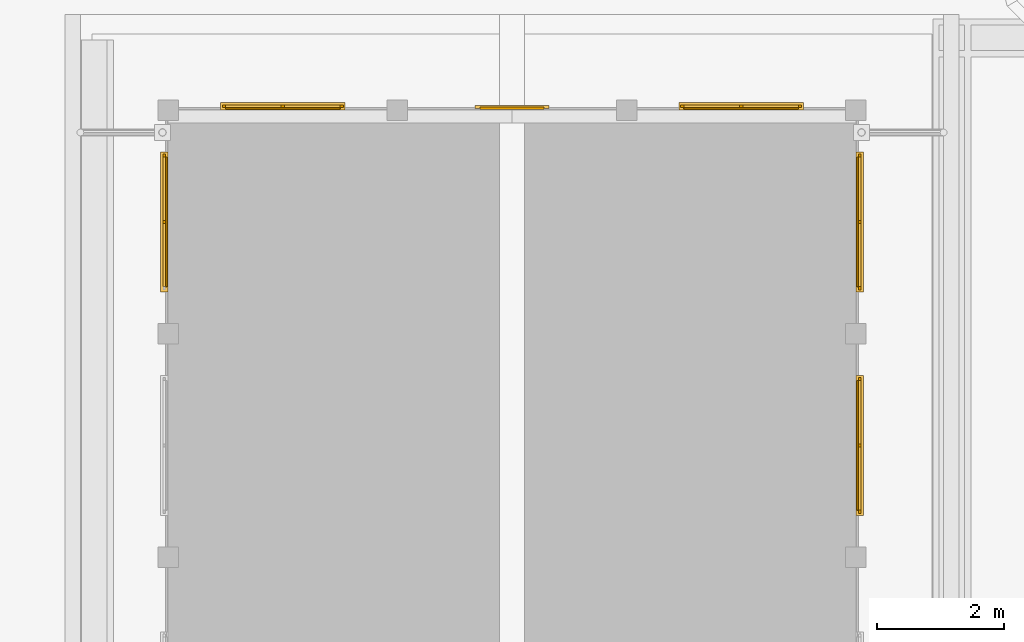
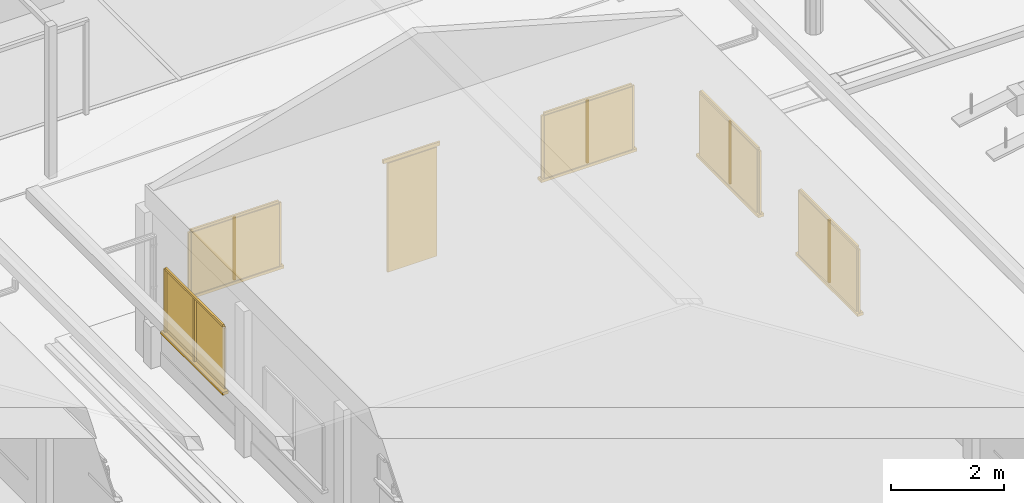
# One storey, part 57 of 177: 29 windows, 2 doors.
"""IFC4 building model written with IfcOpenShell, lengths in metres."""

from ifc_helpers import new_model, si_unit, origin, origin_with_axes, place, context, subcontext, project, spatial, triangles, element, save


model = new_model("IFC4")

# Units and contexts
model_context = context("Model", 3, precision=1e-05, world=origin_with_axes())
body_context = subcontext(model_context, "Body", "Model", "MODEL_VIEW")
ifc_project = project(units=[si_unit("LENGTHUNIT", "METRE"), si_unit("AREAUNIT", "SQUARE_METRE"), si_unit("VOLUMEUNIT", "CUBIC_METRE"), si_unit("PLANEANGLEUNIT", "RADIAN")], contexts=[model_context])

# Site, building, storey
site_placement = place(None, origin_with_axes())
site = spatial("IfcSite", under=ifc_project, at=site_placement, Name="Predio Los Mangos - Morales, San Martín", CompositionType="ELEMENT")
building_placement = place(site_placement, origin())
building = spatial("IfcBuilding", under=site, at=building_placement, Name="Hogar de Refugio Temporal", CompositionType="ELEMENT")
storey_placement = place(building_placement, origin())
storey = spatial("IfcBuildingStorey", under=building, at=storey_placement, Name="NIVEL 1 (NPT +0.00)", CompositionType="ELEMENT", Elevation=0.0)

# Windows
window_1_placement = place(storey_placement, origin())
element("IfcWindow", 1, at=window_1_placement, inside=storey, Name="E-04_vg0_vid", ObjectType="Ventana", PredefinedType="WINDOW", context=body_context, shape_type="Tessellation", body=[
    triangles([(14.7, 87.22, 1.05), (16.5, 87.22, 1.05), (16.5, 87.24, 1.05), (14.7, 87.24, 1.05), (14.7, 87.22, 2.4), (16.5, 87.22, 2.4), (16.5, 87.24, 2.4), (14.7, 87.24, 2.4)], [[1, 4, 3], [1, 3, 2], [5, 6, 7], [5, 7, 8], [1, 2, 6], [1, 6, 5], [2, 3, 7], [2, 7, 6], [3, 4, 8], [3, 8, 7], [4, 1, 5], [4, 5, 8]]),
])
window_2_placement = place(storey_placement, origin())
element("IfcWindow", 2, at=window_2_placement, inside=storey, Name="E-04_vg0_m", ObjectType="Ventana", PredefinedType="WINDOW", context=body_context, shape_type="Tessellation", body=[
    triangles([(14.65, 87.24, 1.05), (14.7, 87.24, 1.05), (14.7, 87.28, 1.05), (14.65, 87.28, 1.05), (14.65, 87.24, 2.4), (14.7, 87.24, 2.4), (14.7, 87.28, 2.4), (14.65, 87.28, 2.4)], [[1, 4, 3], [1, 3, 2], [5, 6, 7], [5, 7, 8], [1, 2, 6], [1, 6, 5], [2, 3, 7], [2, 7, 6], [3, 4, 8], [3, 8, 7], [4, 1, 5], [4, 5, 8]]),
])
window_3_placement = place(storey_placement, origin())
element("IfcWindow", 3, at=window_3_placement, inside=storey, Name="E-04_vg0_m", ObjectType="Ventana", PredefinedType="WINDOW", context=body_context, shape_type="Tessellation", body=[
    triangles([(16.5, 87.24, 1.05), (16.55, 87.24, 1.05), (16.55, 87.28, 1.05), (16.5, 87.28, 1.05), (16.5, 87.24, 2.4), (16.55, 87.24, 2.4), (16.55, 87.28, 2.4), (16.5, 87.28, 2.4)], [[1, 4, 3], [1, 3, 2], [5, 6, 7], [5, 7, 8], [1, 2, 6], [1, 6, 5], [2, 3, 7], [2, 7, 6], [3, 4, 8], [3, 8, 7], [4, 1, 5], [4, 5, 8]]),
])
window_4_placement = place(storey_placement, origin())
element("IfcWindow", 4, at=window_4_placement, inside=storey, Name="E-04_vg0_m", ObjectType="Ventana", PredefinedType="WINDOW", context=body_context, shape_type="Tessellation", body=[
    triangles([(14.7, 87.24, 2.4), (16.5, 87.24, 2.4), (16.5, 87.28, 2.4), (14.7, 87.28, 2.4), (14.7, 87.24, 2.45), (16.5, 87.24, 2.45), (16.5, 87.28, 2.45), (14.7, 87.28, 2.45)], [[1, 4, 3], [1, 3, 2], [5, 6, 7], [5, 7, 8], [1, 2, 6], [1, 6, 5], [2, 3, 7], [2, 7, 6], [3, 4, 8], [3, 8, 7], [4, 1, 5], [4, 5, 8]]),
])
window_5_placement = place(storey_placement, origin())
element("IfcWindow", 5, at=window_5_placement, inside=storey, Name="E-04_vg0_m", ObjectType="Ventana", PredefinedType="WINDOW", context=body_context, shape_type="Tessellation", body=[
    triangles([(15.575, 87.24, 1.05), (15.625, 87.24, 1.05), (15.625, 87.28, 1.05), (15.575, 87.28, 1.05), (15.575, 87.24, 2.4), (15.625, 87.24, 2.4), (15.625, 87.28, 2.4), (15.575, 87.28, 2.4)], [[1, 4, 3], [1, 3, 2], [5, 6, 7], [5, 7, 8], [1, 2, 6], [1, 6, 5], [2, 3, 7], [2, 7, 6], [3, 4, 8], [3, 8, 7], [4, 1, 5], [4, 5, 8]]),
])
window_6_placement = place(storey_placement, origin())
element("IfcWindow", 6, at=window_6_placement, inside=storey, Name="E-04_vg0_alf", ObjectType="Ventana", PredefinedType="WINDOW", context=body_context, shape_type="Tessellation", body=[
    triangles([(14.62, 87.2, 0.99), (16.58, 87.2, 0.99), (16.58, 87.32, 0.99), (14.62, 87.32, 0.99), (14.62, 87.2, 1.05), (16.58, 87.2, 1.05), (16.58, 87.32, 1.05), (14.62, 87.32, 1.05)], [[1, 4, 3], [1, 3, 2], [5, 6, 7], [5, 7, 8], [1, 2, 6], [1, 6, 5], [2, 3, 7], [2, 7, 6], [3, 4, 8], [3, 8, 7], [4, 1, 5], [4, 5, 8]]),
])

# Doors
door_1_placement = place(storey_placement, origin())
element("IfcDoor", 7, at=door_1_placement, inside=storey, Name="E-04_pp", ObjectType="Puerta", PredefinedType="DOOR", context=body_context, shape_type="Tessellation", body=[
    triangles([(18.7, 87.21, 0.15), (19.7, 87.21, 0.15), (19.7, 87.25, 0.15), (18.7, 87.25, 0.15), (18.7, 87.21, 2.5), (19.7, 87.21, 2.5), (19.7, 87.25, 2.5), (18.7, 87.25, 2.5)], [[1, 4, 3], [1, 3, 2], [5, 6, 7], [5, 7, 8], [1, 2, 6], [1, 6, 5], [2, 3, 7], [2, 7, 6], [3, 4, 8], [3, 8, 7], [4, 1, 5], [4, 5, 8]]),
])
door_2_placement = place(storey_placement, origin())
element("IfcDoor", 8, at=door_2_placement, inside=storey, Name="E-04_pp_marco", ObjectType="Puerta", PredefinedType="DOOR", context=body_context, shape_type="Tessellation", body=[
    triangles([(18.62, 87.23, 2.5), (19.78, 87.23, 2.5), (19.78, 87.27, 2.5), (18.62, 87.27, 2.5), (18.62, 87.23, 2.58), (19.78, 87.23, 2.58), (19.78, 87.27, 2.58), (18.62, 87.27, 2.58)], [[1, 4, 3], [1, 3, 2], [5, 6, 7], [5, 7, 8], [1, 2, 6], [1, 6, 5], [2, 3, 7], [2, 7, 6], [3, 4, 8], [3, 8, 7], [4, 1, 5], [4, 5, 8]]),
])

# Windows
window_7_placement = place(storey_placement, origin())
element("IfcWindow", 9, at=window_7_placement, inside=storey, Name="E-04_vg2_vid", ObjectType="Ventana", PredefinedType="WINDOW", context=body_context, shape_type="Tessellation", body=[
    triangles([(21.9, 87.22, 1.05), (23.7, 87.22, 1.05), (23.7, 87.24, 1.05), (21.9, 87.24, 1.05), (21.9, 87.22, 2.4), (23.7, 87.22, 2.4), (23.7, 87.24, 2.4), (21.9, 87.24, 2.4)], [[1, 4, 3], [1, 3, 2], [5, 6, 7], [5, 7, 8], [1, 2, 6], [1, 6, 5], [2, 3, 7], [2, 7, 6], [3, 4, 8], [3, 8, 7], [4, 1, 5], [4, 5, 8]]),
])
window_8_placement = place(storey_placement, origin())
element("IfcWindow", 10, at=window_8_placement, inside=storey, Name="E-04_vg2_m", ObjectType="Ventana", PredefinedType="WINDOW", context=body_context, shape_type="Tessellation", body=[
    triangles([(21.85, 87.24, 1.05), (21.9, 87.24, 1.05), (21.9, 87.28, 1.05), (21.85, 87.28, 1.05), (21.85, 87.24, 2.4), (21.9, 87.24, 2.4), (21.9, 87.28, 2.4), (21.85, 87.28, 2.4)], [[1, 4, 3], [1, 3, 2], [5, 6, 7], [5, 7, 8], [1, 2, 6], [1, 6, 5], [2, 3, 7], [2, 7, 6], [3, 4, 8], [3, 8, 7], [4, 1, 5], [4, 5, 8]]),
])
window_9_placement = place(storey_placement, origin())
element("IfcWindow", 11, at=window_9_placement, inside=storey, Name="E-04_vg2_m", ObjectType="Ventana", PredefinedType="WINDOW", context=body_context, shape_type="Tessellation", body=[
    triangles([(23.7, 87.24, 1.05), (23.75, 87.24, 1.05), (23.75, 87.28, 1.05), (23.7, 87.28, 1.05), (23.7, 87.24, 2.4), (23.75, 87.24, 2.4), (23.75, 87.28, 2.4), (23.7, 87.28, 2.4)], [[1, 4, 3], [1, 3, 2], [5, 6, 7], [5, 7, 8], [1, 2, 6], [1, 6, 5], [2, 3, 7], [2, 7, 6], [3, 4, 8], [3, 8, 7], [4, 1, 5], [4, 5, 8]]),
])
window_10_placement = place(storey_placement, origin())
element("IfcWindow", 12, at=window_10_placement, inside=storey, Name="E-04_vg2_m", ObjectType="Ventana", PredefinedType="WINDOW", context=body_context, shape_type="Tessellation", body=[
    triangles([(21.9, 87.24, 2.4), (23.7, 87.24, 2.4), (23.7, 87.28, 2.4), (21.9, 87.28, 2.4), (21.9, 87.24, 2.45), (23.7, 87.24, 2.45), (23.7, 87.28, 2.45), (21.9, 87.28, 2.45)], [[1, 4, 3], [1, 3, 2], [5, 6, 7], [5, 7, 8], [1, 2, 6], [1, 6, 5], [2, 3, 7], [2, 7, 6], [3, 4, 8], [3, 8, 7], [4, 1, 5], [4, 5, 8]]),
])
window_11_placement = place(storey_placement, origin())
element("IfcWindow", 13, at=window_11_placement, inside=storey, Name="E-04_vg2_m", ObjectType="Ventana", PredefinedType="WINDOW", context=body_context, shape_type="Tessellation", body=[
    triangles([(22.775, 87.24, 1.05), (22.825, 87.24, 1.05), (22.825, 87.28, 1.05), (22.775, 87.28, 1.05), (22.775, 87.24, 2.4), (22.825, 87.24, 2.4), (22.825, 87.28, 2.4), (22.775, 87.28, 2.4)], [[1, 4, 3], [1, 3, 2], [5, 6, 7], [5, 7, 8], [1, 2, 6], [1, 6, 5], [2, 3, 7], [2, 7, 6], [3, 4, 8], [3, 8, 7], [4, 1, 5], [4, 5, 8]]),
])
window_12_placement = place(storey_placement, origin())
element("IfcWindow", 14, at=window_12_placement, inside=storey, Name="E-04_vg2_alf", ObjectType="Ventana", PredefinedType="WINDOW", context=body_context, shape_type="Tessellation", body=[
    triangles([(21.82, 87.2, 0.99), (23.78, 87.2, 0.99), (23.78, 87.32, 0.99), (21.82, 87.32, 0.99), (21.82, 87.2, 1.05), (23.78, 87.2, 1.05), (23.78, 87.32, 1.05), (21.82, 87.32, 1.05)], [[1, 4, 3], [1, 3, 2], [5, 6, 7], [5, 7, 8], [1, 2, 6], [1, 6, 5], [2, 3, 7], [2, 7, 6], [3, 4, 8], [3, 8, 7], [4, 1, 5], [4, 5, 8]]),
])
window_13_placement = place(storey_placement, origin())
element("IfcWindow", 15, at=window_13_placement, inside=storey, Name="E-04_v9_vid", ObjectType="Ventana", PredefinedType="WINDOW", context=body_context, shape_type="Tessellation", body=[
    triangles([(13.76, 84.4271, 1.05), (13.78, 84.4271, 1.05), (13.78, 86.4629, 1.05), (13.76, 86.4629, 1.05), (13.76, 84.4271, 2.4), (13.78, 84.4271, 2.4), (13.78, 86.4629, 2.4), (13.76, 86.4629, 2.4)], [[1, 4, 3], [1, 3, 2], [5, 6, 7], [5, 7, 8], [1, 2, 6], [1, 6, 5], [2, 3, 7], [2, 7, 6], [3, 4, 8], [3, 8, 7], [4, 1, 5], [4, 5, 8]]),
])
window_14_placement = place(storey_placement, origin())
element("IfcWindow", 16, at=window_14_placement, inside=storey, Name="E-04_v9_m", ObjectType="Ventana", PredefinedType="WINDOW", context=body_context, shape_type="Tessellation", body=[
    triangles([(13.72, 86.4629, 1.05), (13.76, 86.4629, 1.05), (13.76, 86.5129, 1.05), (13.72, 86.5129, 1.05), (13.72, 86.4629, 2.4), (13.76, 86.4629, 2.4), (13.76, 86.5129, 2.4), (13.72, 86.5129, 2.4)], [[1, 4, 3], [1, 3, 2], [5, 6, 7], [5, 7, 8], [1, 2, 6], [1, 6, 5], [2, 3, 7], [2, 7, 6], [3, 4, 8], [3, 8, 7], [4, 1, 5], [4, 5, 8]]),
])
window_15_placement = place(storey_placement, origin())
element("IfcWindow", 17, at=window_15_placement, inside=storey, Name="E-04_v9_m", ObjectType="Ventana", PredefinedType="WINDOW", context=body_context, shape_type="Tessellation", body=[
    triangles([(13.72, 84.4271, 2.4), (13.76, 84.4271, 2.4), (13.76, 86.4629, 2.4), (13.72, 86.4629, 2.4), (13.72, 84.4271, 2.45), (13.76, 84.4271, 2.45), (13.76, 86.4629, 2.45), (13.72, 86.4629, 2.45)], [[1, 4, 3], [1, 3, 2], [5, 6, 7], [5, 7, 8], [1, 2, 6], [1, 6, 5], [2, 3, 7], [2, 7, 6], [3, 4, 8], [3, 8, 7], [4, 1, 5], [4, 5, 8]]),
])
window_16_placement = place(storey_placement, origin())
element("IfcWindow", 18, at=window_16_placement, inside=storey, Name="E-04_v9_m", ObjectType="Ventana", PredefinedType="WINDOW", context=body_context, shape_type="Tessellation", body=[
    triangles([(13.72, 85.42, 1.05), (13.76, 85.42, 1.05), (13.76, 85.47, 1.05), (13.72, 85.47, 1.05), (13.72, 85.42, 2.4), (13.76, 85.42, 2.4), (13.76, 85.47, 2.4), (13.72, 85.47, 2.4)], [[1, 4, 3], [1, 3, 2], [5, 6, 7], [5, 7, 8], [1, 2, 6], [1, 6, 5], [2, 3, 7], [2, 7, 6], [3, 4, 8], [3, 8, 7], [4, 1, 5], [4, 5, 8]]),
])
window_17_placement = place(storey_placement, origin())
element("IfcWindow", 19, at=window_17_placement, inside=storey, Name="E-04_v9_alf", ObjectType="Ventana", PredefinedType="WINDOW", context=body_context, shape_type="Tessellation", body=[
    triangles([(13.8, 84.3471, 0.99), (13.68, 84.3471, 0.99), (13.68, 86.5429, 0.99), (13.8, 86.5429, 0.99), (13.8, 84.3471, 1.05), (13.68, 84.3471, 1.05), (13.68, 86.5429, 1.05), (13.8, 86.5429, 1.05)], [[1, 4, 3], [1, 3, 2], [5, 6, 7], [5, 7, 8], [1, 2, 6], [1, 6, 5], [2, 3, 7], [2, 7, 6], [3, 4, 8], [3, 8, 7], [4, 1, 5], [4, 5, 8]]),
])
window_18_placement = place(storey_placement, origin())
element("IfcWindow", 20, at=window_18_placement, inside=storey, Name="E-04_v8_vid", ObjectType="Ventana", PredefinedType="WINDOW", context=body_context, shape_type="Tessellation", body=[
    triangles([(24.62, 80.9171, 1.05), (24.64, 80.9171, 1.05), (24.64, 82.9529, 1.05), (24.62, 82.9529, 1.05), (24.62, 80.9171, 2.4), (24.64, 80.9171, 2.4), (24.64, 82.9529, 2.4), (24.62, 82.9529, 2.4)], [[1, 4, 3], [1, 3, 2], [5, 6, 7], [5, 7, 8], [1, 2, 6], [1, 6, 5], [2, 3, 7], [2, 7, 6], [3, 4, 8], [3, 8, 7], [4, 1, 5], [4, 5, 8]]),
])
window_19_placement = place(storey_placement, origin())
element("IfcWindow", 21, at=window_19_placement, inside=storey, Name="E-04_v8_m", ObjectType="Ventana", PredefinedType="WINDOW", context=body_context, shape_type="Tessellation", body=[
    triangles([(24.64, 80.8671, 1.05), (24.68, 80.8671, 1.05), (24.68, 80.9171, 1.05), (24.64, 80.9171, 1.05), (24.64, 80.8671, 2.4), (24.68, 80.8671, 2.4), (24.68, 80.9171, 2.4), (24.64, 80.9171, 2.4)], [[1, 4, 3], [1, 3, 2], [5, 6, 7], [5, 7, 8], [1, 2, 6], [1, 6, 5], [2, 3, 7], [2, 7, 6], [3, 4, 8], [3, 8, 7], [4, 1, 5], [4, 5, 8]]),
])
window_20_placement = place(storey_placement, origin())
element("IfcWindow", 22, at=window_20_placement, inside=storey, Name="E-04_v8_m", ObjectType="Ventana", PredefinedType="WINDOW", context=body_context, shape_type="Tessellation", body=[
    triangles([(24.64, 82.9529, 1.05), (24.68, 82.9529, 1.05), (24.68, 83.0029, 1.05), (24.64, 83.0029, 1.05), (24.64, 82.9529, 2.4), (24.68, 82.9529, 2.4), (24.68, 83.0029, 2.4), (24.64, 83.0029, 2.4)], [[1, 4, 3], [1, 3, 2], [5, 6, 7], [5, 7, 8], [1, 2, 6], [1, 6, 5], [2, 3, 7], [2, 7, 6], [3, 4, 8], [3, 8, 7], [4, 1, 5], [4, 5, 8]]),
])
window_21_placement = place(storey_placement, origin())
element("IfcWindow", 23, at=window_21_placement, inside=storey, Name="E-04_v8_m", ObjectType="Ventana", PredefinedType="WINDOW", context=body_context, shape_type="Tessellation", body=[
    triangles([(24.64, 80.9171, 2.4), (24.68, 80.9171, 2.4), (24.68, 82.9529, 2.4), (24.64, 82.9529, 2.4), (24.64, 80.9171, 2.45), (24.68, 80.9171, 2.45), (24.68, 82.9529, 2.45), (24.64, 82.9529, 2.45)], [[1, 4, 3], [1, 3, 2], [5, 6, 7], [5, 7, 8], [1, 2, 6], [1, 6, 5], [2, 3, 7], [2, 7, 6], [3, 4, 8], [3, 8, 7], [4, 1, 5], [4, 5, 8]]),
])
window_22_placement = place(storey_placement, origin())
element("IfcWindow", 24, at=window_22_placement, inside=storey, Name="E-04_v8_m", ObjectType="Ventana", PredefinedType="WINDOW", context=body_context, shape_type="Tessellation", body=[
    triangles([(24.64, 81.91, 1.05), (24.68, 81.91, 1.05), (24.68, 81.96, 1.05), (24.64, 81.96, 1.05), (24.64, 81.91, 2.4), (24.68, 81.91, 2.4), (24.68, 81.96, 2.4), (24.64, 81.96, 2.4)], [[1, 4, 3], [1, 3, 2], [5, 6, 7], [5, 7, 8], [1, 2, 6], [1, 6, 5], [2, 3, 7], [2, 7, 6], [3, 4, 8], [3, 8, 7], [4, 1, 5], [4, 5, 8]]),
])
window_23_placement = place(storey_placement, origin())
element("IfcWindow", 25, at=window_23_placement, inside=storey, Name="E-04_v8_alf", ObjectType="Ventana", PredefinedType="WINDOW", context=body_context, shape_type="Tessellation", body=[
    triangles([(24.6, 80.8371, 0.99), (24.72, 80.8371, 0.99), (24.72, 83.0329, 0.99), (24.6, 83.0329, 0.99), (24.6, 80.8371, 1.05), (24.72, 80.8371, 1.05), (24.72, 83.0329, 1.05), (24.6, 83.0329, 1.05)], [[1, 4, 3], [1, 3, 2], [5, 6, 7], [5, 7, 8], [1, 2, 6], [1, 6, 5], [2, 3, 7], [2, 7, 6], [3, 4, 8], [3, 8, 7], [4, 1, 5], [4, 5, 8]]),
])
window_24_placement = place(storey_placement, origin())
element("IfcWindow", 26, at=window_24_placement, inside=storey, Name="E-04_v9_vid", ObjectType="Ventana", PredefinedType="WINDOW", context=body_context, shape_type="Tessellation", body=[
    triangles([(24.62, 84.4271, 1.05), (24.64, 84.4271, 1.05), (24.64, 86.4629, 1.05), (24.62, 86.4629, 1.05), (24.62, 84.4271, 2.4), (24.64, 84.4271, 2.4), (24.64, 86.4629, 2.4), (24.62, 86.4629, 2.4)], [[1, 4, 3], [1, 3, 2], [5, 6, 7], [5, 7, 8], [1, 2, 6], [1, 6, 5], [2, 3, 7], [2, 7, 6], [3, 4, 8], [3, 8, 7], [4, 1, 5], [4, 5, 8]]),
])
window_25_placement = place(storey_placement, origin())
element("IfcWindow", 27, at=window_25_placement, inside=storey, Name="E-04_v9_m", ObjectType="Ventana", PredefinedType="WINDOW", context=body_context, shape_type="Tessellation", body=[
    triangles([(24.64, 84.3771, 1.05), (24.68, 84.3771, 1.05), (24.68, 84.4271, 1.05), (24.64, 84.4271, 1.05), (24.64, 84.3771, 2.4), (24.68, 84.3771, 2.4), (24.68, 84.4271, 2.4), (24.64, 84.4271, 2.4)], [[1, 4, 3], [1, 3, 2], [5, 6, 7], [5, 7, 8], [1, 2, 6], [1, 6, 5], [2, 3, 7], [2, 7, 6], [3, 4, 8], [3, 8, 7], [4, 1, 5], [4, 5, 8]]),
])
window_26_placement = place(storey_placement, origin())
element("IfcWindow", 28, at=window_26_placement, inside=storey, Name="E-04_v9_m", ObjectType="Ventana", PredefinedType="WINDOW", context=body_context, shape_type="Tessellation", body=[
    triangles([(24.64, 86.4629, 1.05), (24.68, 86.4629, 1.05), (24.68, 86.5129, 1.05), (24.64, 86.5129, 1.05), (24.64, 86.4629, 2.4), (24.68, 86.4629, 2.4), (24.68, 86.5129, 2.4), (24.64, 86.5129, 2.4)], [[1, 4, 3], [1, 3, 2], [5, 6, 7], [5, 7, 8], [1, 2, 6], [1, 6, 5], [2, 3, 7], [2, 7, 6], [3, 4, 8], [3, 8, 7], [4, 1, 5], [4, 5, 8]]),
])
window_27_placement = place(storey_placement, origin())
element("IfcWindow", 29, at=window_27_placement, inside=storey, Name="E-04_v9_m", ObjectType="Ventana", PredefinedType="WINDOW", context=body_context, shape_type="Tessellation", body=[
    triangles([(24.64, 84.4271, 2.4), (24.68, 84.4271, 2.4), (24.68, 86.4629, 2.4), (24.64, 86.4629, 2.4), (24.64, 84.4271, 2.45), (24.68, 84.4271, 2.45), (24.68, 86.4629, 2.45), (24.64, 86.4629, 2.45)], [[1, 4, 3], [1, 3, 2], [5, 6, 7], [5, 7, 8], [1, 2, 6], [1, 6, 5], [2, 3, 7], [2, 7, 6], [3, 4, 8], [3, 8, 7], [4, 1, 5], [4, 5, 8]]),
])
window_28_placement = place(storey_placement, origin())
element("IfcWindow", 30, at=window_28_placement, inside=storey, Name="E-04_v9_m", ObjectType="Ventana", PredefinedType="WINDOW", context=body_context, shape_type="Tessellation", body=[
    triangles([(24.64, 85.42, 1.05), (24.68, 85.42, 1.05), (24.68, 85.47, 1.05), (24.64, 85.47, 1.05), (24.64, 85.42, 2.4), (24.68, 85.42, 2.4), (24.68, 85.47, 2.4), (24.64, 85.47, 2.4)], [[1, 4, 3], [1, 3, 2], [5, 6, 7], [5, 7, 8], [1, 2, 6], [1, 6, 5], [2, 3, 7], [2, 7, 6], [3, 4, 8], [3, 8, 7], [4, 1, 5], [4, 5, 8]]),
])
window_29_placement = place(storey_placement, origin())
element("IfcWindow", 31, at=window_29_placement, inside=storey, Name="E-04_v9_alf", ObjectType="Ventana", PredefinedType="WINDOW", context=body_context, shape_type="Tessellation", body=[
    triangles([(24.6, 84.3471, 0.99), (24.72, 84.3471, 0.99), (24.72, 86.5429, 0.99), (24.6, 86.5429, 0.99), (24.6, 84.3471, 1.05), (24.72, 84.3471, 1.05), (24.72, 86.5429, 1.05), (24.6, 86.5429, 1.05)], [[1, 4, 3], [1, 3, 2], [5, 6, 7], [5, 7, 8], [1, 2, 6], [1, 6, 5], [2, 3, 7], [2, 7, 6], [3, 4, 8], [3, 8, 7], [4, 1, 5], [4, 5, 8]]),
])

save(model, "model.ifc")
